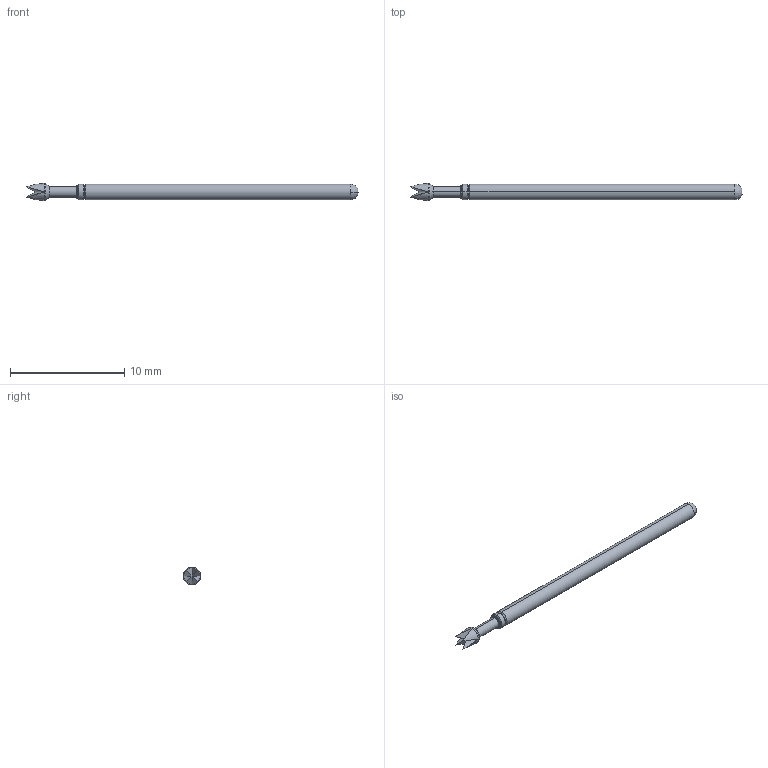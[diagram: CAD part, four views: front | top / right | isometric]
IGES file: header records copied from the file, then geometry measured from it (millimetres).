
Start section: SolidWorks IGES file using analytic representation for surfaces
Global section: file name: Z:\probe solid model mockups\Solidworks models\LTP-25\LTP-25L RECD.IGS; native system: SolidWorks 2006 by SolidWorks Corporation; preprocessor: SolidWorks 2006 by SolidWorks Corporation; author: tsakatani; date: 071214.143224; units: inch
Bounding box: 29.08 x 1.52 x 1.52 mm (x, y, z)
Surface area: 125.1 mm2 (no closed solid volume)
Topology: 0 solids, 0 shells, 34 faces, 210 edges, 210 vertices
Faces by surface type: revolution 20, bspline 14
